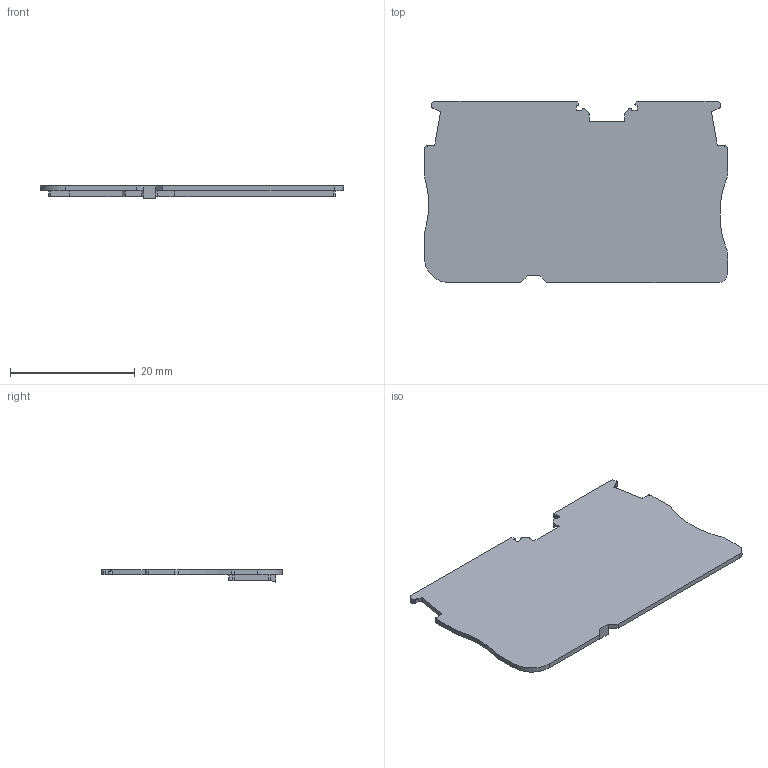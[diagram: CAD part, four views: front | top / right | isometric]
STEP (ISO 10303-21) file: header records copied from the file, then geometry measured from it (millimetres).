
FILE_DESCRIPTION(('SolidDesigner STEP Export'),'2;1');
FILE_NAME('3030511_D_ST_2.5_0.8_OG-select.stp','2013-02-28T11:46:23',(''),(''),'Creo Elements/Direct Modeling STEP processor for AP214 (Solid Model)','Creo Elements/Direct Modeling 18.1 06-May-2012 (C) Parametric Technology GmbH','');
FILE_SCHEMA(('AUTOMOTIVE_DESIGN { 1 0 10303 214 1 1 1 1 }'));
Length unit declared in the file: millimetre
Products named in the file (2): 3030511_D_ST_2.5_0.8_OG-select
Assembly tree (1 placements, depth 2):
  3030511_D_ST_2.5_0.8_OG-select
    3030511_D_ST_2.5_0.8_OG-select
Bounding box: 48.6 x 29.05 x 2 mm (x, y, z)
Volume: 1102.3 mm3; surface area: 2913.1 mm2
Topology: 1 solids, 1 shells, 118 faces, 346 edges, 230 vertices
Faces by surface type: plane 77, cylinder 41
Entity records: 4901 total; most frequent: CARTESIAN_POINT 692, ORIENTED_EDGE 692, DIRECTION 676, EDGE_CURVE 346, VECTOR 248, LINE 248, VERTEX_POINT 230, AXIS2_PLACEMENT_3D 214
